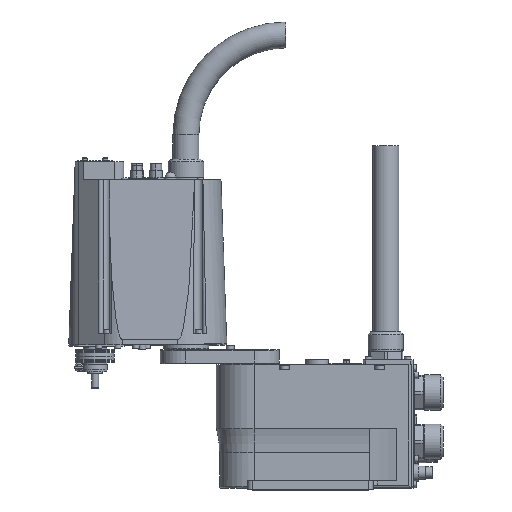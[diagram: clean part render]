
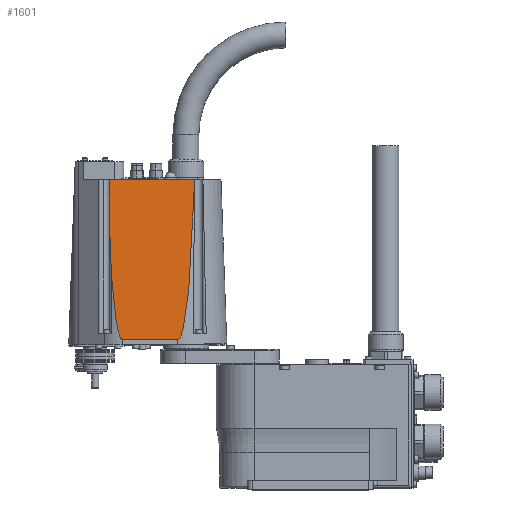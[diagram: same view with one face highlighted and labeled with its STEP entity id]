
A CAD part, top view. The second image highlights one B-rep face of the part: STEP entity #1601.
In plain terms, the highlighted planar face has unit normal (0, 0.035, 0.999).
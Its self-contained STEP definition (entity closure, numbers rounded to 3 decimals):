
#1601 = ADVANCED_FACE( '', ( #4706 ), #4707, .F. );
#4706 = FACE_OUTER_BOUND( '', #8182, .T. );
#4707 = PLANE( '', #8183 );
#8182 = EDGE_LOOP( '', ( #18768, #18769, #18770, #18771, #18772, #18773 ) );
#8183 = AXIS2_PLACEMENT_3D( '', #18774, #18775, #18776 );
#18768 = ORIENTED_EDGE( '', *, *, #24212, .T. );
#18769 = ORIENTED_EDGE( '', *, *, #24213, .T. );
#18770 = ORIENTED_EDGE( '', *, *, #24220, .F. );
#18771 = ORIENTED_EDGE( '', *, *, #24221, .F. );
#18772 = ORIENTED_EDGE( '', *, *, #24183, .F. );
#18773 = ORIENTED_EDGE( '', *, *, #24167, .T. );
#18774 = CARTESIAN_POINT( '', ( 33.8, 157.5, 54.21 ) );
#18775 = DIRECTION( '', ( 0., -0.035, -0.999 ) );
#18776 = DIRECTION( '', ( 0., -0.999, 0.035 ) );
#24167 = EDGE_CURVE( '', #30037, #30035, #30038, .T. );
#24183 = EDGE_CURVE( '', #30037, #30062, #30063, .T. );
#24212 = EDGE_CURVE( '', #30035, #30104, #30106, .T. );
#24213 = EDGE_CURVE( '', #30104, #30107, #30108, .T. );
#24220 = EDGE_CURVE( '', #30118, #30107, #30119, .T. );
#24221 = EDGE_CURVE( '', #30062, #30118, #30120, .T. );
#30035 = VERTEX_POINT( '', #38309 );
#30037 = VERTEX_POINT( '', #38311 );
#30038 = LINE( '', #38312, #38313 );
#30062 = VERTEX_POINT( '', #38398 );
#30063 = ELLIPSE( '', #38399, 1548.243, 54. );
#30104 = VERTEX_POINT( '', #38456 );
#30106 = ELLIPSE( '', #38459, 85.961, 3. );
#30107 = VERTEX_POINT( '', #38460 );
#30108 = LINE( '', #38461, #38462 );
#30118 = VERTEX_POINT( '', #38477 );
#30119 = ELLIPSE( '', #38478, 859.611, 30. );
#30120 = LINE( '', #38479, #38480 );
#38309 = CARTESIAN_POINT( '', ( -158.931, 339.3, 47.861 ) );
#38311 = CARTESIAN_POINT( '', ( -65.327, 339.3, 47.861 ) );
#38312 = CARTESIAN_POINT( '', ( -70.6, 339.3, 47.861 ) );
#38313 = VECTOR( '', #45181, 1. );
#38398 = CARTESIAN_POINT( '', ( -84.21, 163.5, 54. ) );
#38399 = AXIS2_PLACEMENT_3D( '', #45215, #45216, #45217 );
#38456 = CARTESIAN_POINT( '', ( -157.1, 241.074, 51.291 ) );
#38459 = AXIS2_PLACEMENT_3D( '', #45268, #45269, #45270 );
#38460 = CARTESIAN_POINT( '', ( -157.1, 235.221, 51.495 ) );
#38461 = CARTESIAN_POINT( '', ( -157.1, 164.043, 53.981 ) );
#38462 = VECTOR( '', #45271, 1. );
#38477 = CARTESIAN_POINT( '', ( -145.1, 163.5, 54. ) );
#38478 = AXIS2_PLACEMENT_3D( '', #45280, #45281, #45282 );
#38479 = CARTESIAN_POINT( '', ( -25.1, 163.5, 54. ) );
#38480 = VECTOR( '', #45283, 1. );
#45181 = DIRECTION( '', ( -1., 0., 0. ) );
#45215 = CARTESIAN_POINT( '', ( -138.21, 1709.858, 0. ) );
#45216 = DIRECTION( '', ( 0., -0.035, -0.999 ) );
#45217 = DIRECTION( '', ( 0.035, -0.999, 0.035 ) );
#45268 = CARTESIAN_POINT( '', ( -156., 320.999, 48.5 ) );
#45269 = DIRECTION( '', ( 0., 0.035, 0.999 ) );
#45270 = DIRECTION( '', ( 0., -0.999, 0.035 ) );
#45271 = DIRECTION( '', ( 0., -0.999, 0.035 ) );
#45280 = CARTESIAN_POINT( '', ( -145.1, 1022.588, 24. ) );
#45281 = DIRECTION( '', ( 0., -0.035, -0.999 ) );
#45282 = DIRECTION( '', ( 0., -0.999, 0.035 ) );
#45283 = DIRECTION( '', ( -1., 0., 0. ) );
